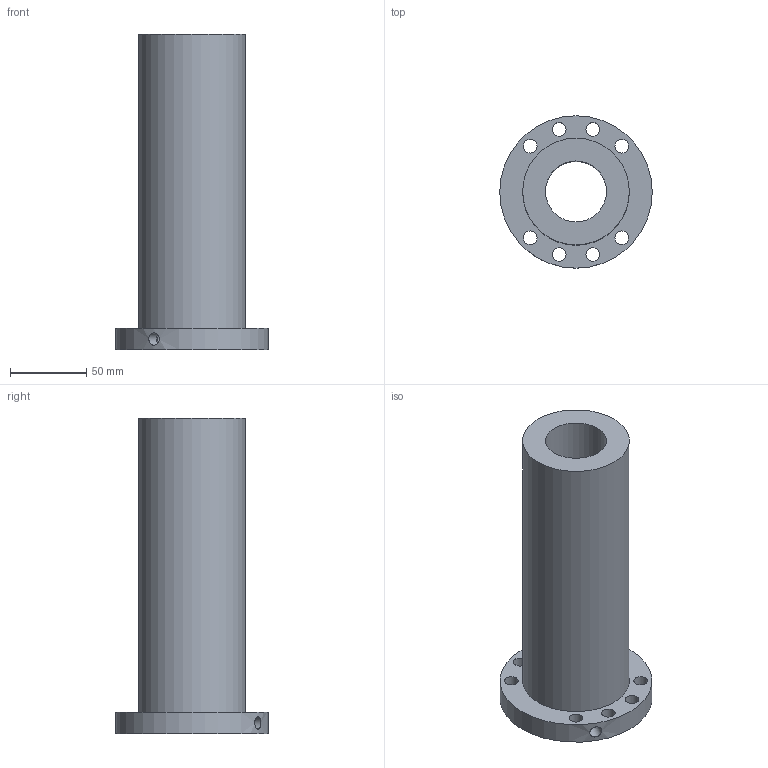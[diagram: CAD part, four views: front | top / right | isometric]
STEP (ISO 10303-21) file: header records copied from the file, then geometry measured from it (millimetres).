
FILE_DESCRIPTION(/* description */ (''),/* implementation_level */ '2;1');
FILE_NAME(/* name */ '40-40K2_635',/* time_stamp */ '2007-10-15T12:53:57+08:00',/* author */ (''),/* organization */ (''),/* preprocessor_version */ 'ST-DEVELOPER v11',/* originating_system */ 'UGS - NX 5.0',/* authorisation */ '');
FILE_SCHEMA (('CONFIG_CONTROL_DESIGN'));
Length unit declared in the file: millimetre
Products named in the file (1): 40-40K2_635
Bounding box: 100 x 100 x 207 mm (x, y, z)
Volume: 584390.5 mm3; surface area: 88768.9 mm2
Topology: 1 solids, 1 shells, 17 faces, 40 edges, 27 vertices
Faces by surface type: cylinder 13, plane 4
Full cylindrical faces by diameter (mm): 6 x1, 8 x1, 9 x8, 40 x1, 70 x1, 100 x1
Entity records: 668 total; most frequent: CARTESIAN_POINT 184, DIRECTION 84, FACE_BOUND 52, EDGE_LOOP 52, ORIENTED_EDGE 52, AXIS2_PLACEMENT_3D 42, VERTEX_POINT 26, EDGE_CURVE 26
